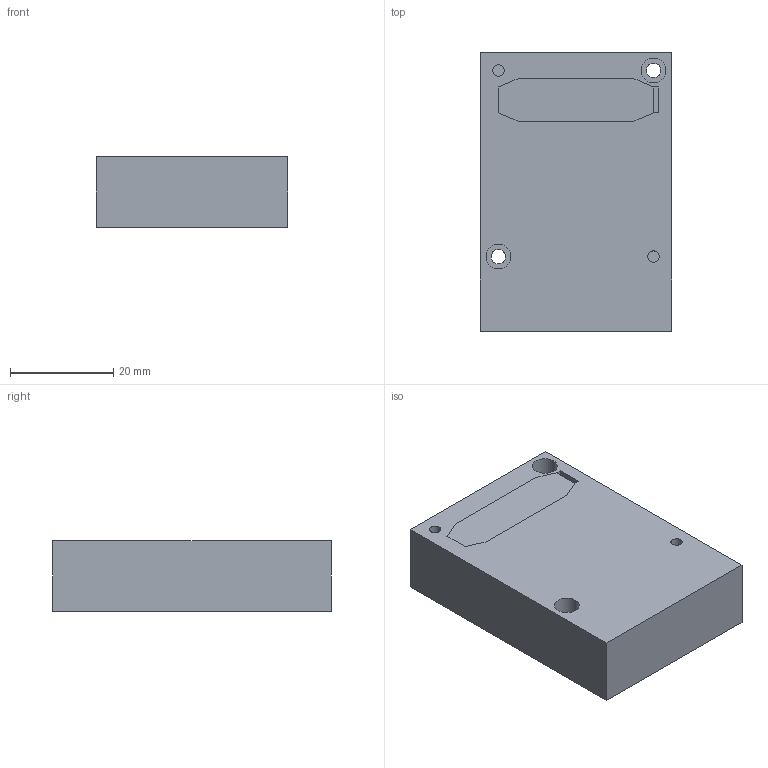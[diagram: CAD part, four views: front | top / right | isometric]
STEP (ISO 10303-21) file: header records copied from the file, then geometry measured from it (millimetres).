
FILE_DESCRIPTION (( 'STEP AP214' ), '1' );
FILE_NAME ('afpx-mrtc.step', '2009-08-28T01:51:12', ( '' ), ( 'PanasonicElectricWorks' ), '', '', '' );
FILE_SCHEMA (( 'AUTOMOTIVE_DESIGN' ));
Length unit declared in the file: millimetre
Products named in the file (1): afpx-mrtc
Bounding box: 37 x 53.8 x 13.6 mm (x, y, z)
Volume: 19355 mm3; surface area: 9463.2 mm2
Topology: 2 solids, 2 shells, 108 faces, 272 edges, 180 vertices
Faces by surface type: plane 86, cylinder 22
Entity records: 4436 total; most frequent: CARTESIAN_POINT 561, ORIENTED_EDGE 544, DIRECTION 534, EDGE_CURVE 272, VECTOR 228, LINE 228, VERTEX_POINT 180, AXIS2_PLACEMENT_3D 153
